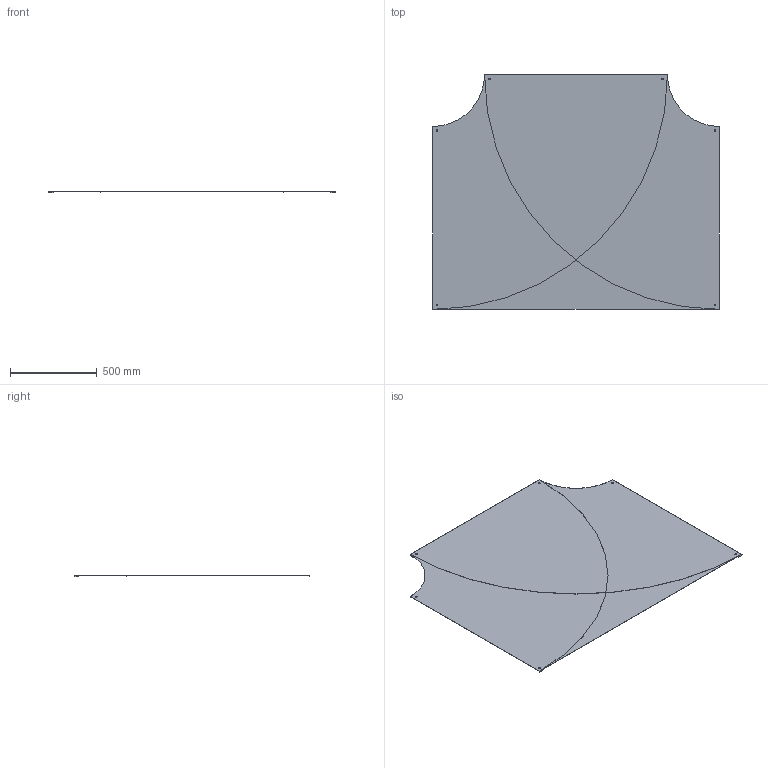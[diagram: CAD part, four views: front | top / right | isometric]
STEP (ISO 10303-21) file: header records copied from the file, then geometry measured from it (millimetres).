
FILE_DESCRIPTION(/* description */ ('','CAx-IF Rec.Pracs.---Representation and Presentation of Product Manufacturing Information (PMI)---4.0---2014-10-13'),/* implementation_level */ '2;1');
FILE_NAME(/* name */ 'Eurostrut_EETC1000-300_Cover T-Piece for Cable Ladder ECL.step',/* time_stamp */ '2026-09-10T09:52:15+02:00',/* author */ (''),/* organization */ (''),/* preprocessor_version */ 'ST-DEVELOPER v20.1',/* originating_system */ 'Autodesk Revit 2027 27.2.0.39',/* authorisation */ '');
FILE_SCHEMA (('AP242_MANAGED_MODEL_BASED_3D_ENGINEERING_MIM_LF { 1 0 10303 442 2 1 4 }'));
Length unit declared in the file: millimetre
Products named in the file (7): TopLevelAssembly; Extrusion; Joined Solid Geometry; Joined Solid Geometry_1; Joined Solid Geometry_2; Joined Solid Geometry_3; Joined Solid Geometry_4
Assembly tree (6 placements, depth 2):
  TopLevelAssembly
    Extrusion
    Joined Solid Geometry
    Joined Solid Geometry_1
    Joined Solid Geometry_2
    Joined Solid Geometry_3
    Joined Solid Geometry_4
Bounding box: 1650 x 1351.5 x 9 mm (x, y, z)
Volume: 7228829.9 mm3; surface area: 9662398.6 mm2
Topology: 9 solids, 9 shells, 84 faces, 198 edges, 132 vertices
Faces by surface type: plane 42, cylinder 42
Entity records: 2630 total; most frequent: DIRECTION 476, CARTESIAN_POINT 427, ORIENTED_EDGE 396, EDGE_CURVE 198, AXIS2_PLACEMENT_3D 181, VERTEX_POINT 132, LINE 114, VECTOR 114
